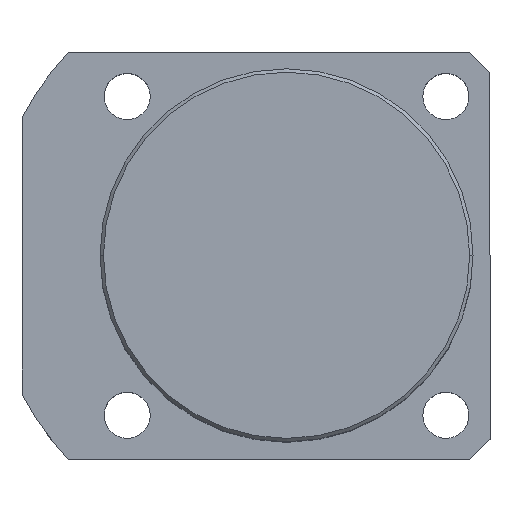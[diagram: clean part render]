
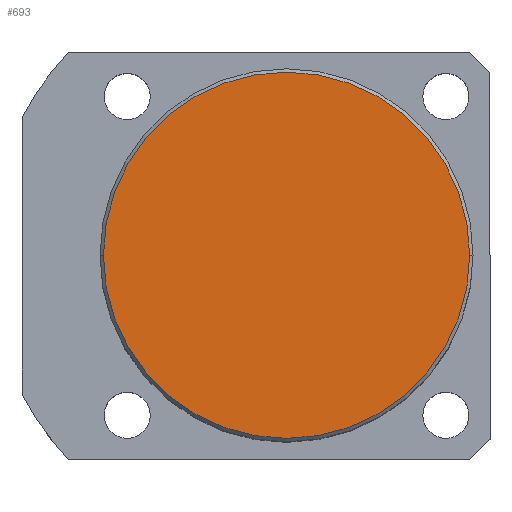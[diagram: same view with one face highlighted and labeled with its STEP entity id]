
A CAD part, top view. The second image highlights one B-rep face of the part: STEP entity #693.
In plain terms, the highlighted planar face has unit normal (0, 0, 1).
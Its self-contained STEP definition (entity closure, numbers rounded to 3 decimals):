
#129 = PLANE ( 'NONE',  #774 ) ;
#154 = DIRECTION ( 'NONE',  ( 1., 0., 0. ) ) ;
#424 = EDGE_CURVE ( 'NONE', #980, #430, #1412, .T. ) ;
#430 = VERTEX_POINT ( 'NONE', #1709 ) ;
#465 = FACE_OUTER_BOUND ( 'NONE', #1723, .T. ) ;
#599 = CARTESIAN_POINT ( 'NONE',  ( 0., 0., 60. ) ) ;
#693 = ADVANCED_FACE ( 'NONE', ( #465 ), #129, .T. ) ;
#774 = AXIS2_PLACEMENT_3D ( 'NONE', #599, #1969, #925 ) ;
#925 = DIRECTION ( 'NONE',  ( 1., 0., 0. ) ) ;
#974 = CARTESIAN_POINT ( 'NONE',  ( 0., 0., 60. ) ) ;
#980 = VERTEX_POINT ( 'NONE', #2157 ) ;
#1142 = DIRECTION ( 'NONE',  ( 0., 0., 1. ) ) ;
#1205 = EDGE_CURVE ( 'NONE', #430, #980, #2107, .T. ) ;
#1390 = CARTESIAN_POINT ( 'NONE',  ( 0., 0., 60. ) ) ;
#1412 = CIRCLE ( 'NONE', #1970, 27. ) ;
#1539 = DIRECTION ( 'NONE',  ( 1., 0., 0. ) ) ;
#1565 = DIRECTION ( 'NONE',  ( 0., 0., 1. ) ) ;
#1709 = CARTESIAN_POINT ( 'NONE',  ( -27., 0., 60. ) ) ;
#1710 = ORIENTED_EDGE ( 'NONE', *, *, #1205, .T. ) ;
#1723 = EDGE_LOOP ( 'NONE', ( #1710, #1825 ) ) ;
#1760 = AXIS2_PLACEMENT_3D ( 'NONE', #974, #1142, #154 ) ;
#1825 = ORIENTED_EDGE ( 'NONE', *, *, #424, .T. ) ;
#1969 = DIRECTION ( 'NONE',  ( 0., 0., 1. ) ) ;
#1970 = AXIS2_PLACEMENT_3D ( 'NONE', #1390, #1565, #1539 ) ;
#2107 = CIRCLE ( 'NONE', #1760, 27. ) ;
#2157 = CARTESIAN_POINT ( 'NONE',  ( 27., 0., 60. ) ) ;
